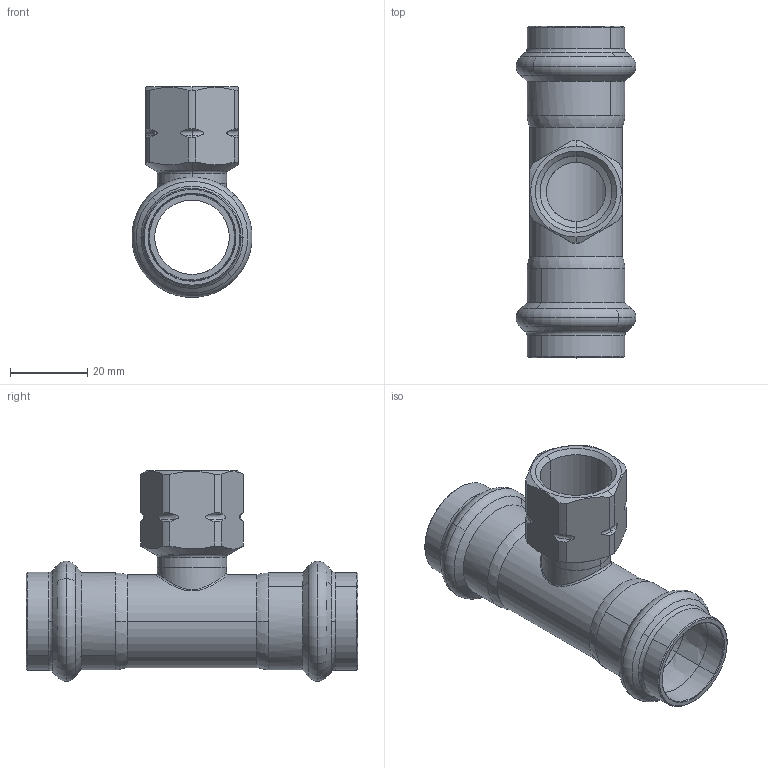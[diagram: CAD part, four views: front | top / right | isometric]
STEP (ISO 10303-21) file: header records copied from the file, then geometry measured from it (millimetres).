
FILE_DESCRIPTION(('CoCreate Modeling STEP Export'),'2;1');
FILE_NAME('8130GVW221222.stp','2013-02-05T10:23:41',(''),(''),'CoCreate Modeling STEP processor for AP214 (Solid Model)','CoCreate Modeling 17.00A 17-Jun-2010 (C) Parametric Technology GmbH','');
FILE_SCHEMA(('AUTOMOTIVE_DESIGN { 1 0 10303 214 1 1 1 1 }'));
Length unit declared in the file: millimetre
Products named in the file (2): 8130GVW221222
Assembly tree (1 placements, depth 2):
  8130GVW221222
    8130GVW221222
Bounding box: 31.08 x 86.01 x 54.54 mm (x, y, z)
Volume: 17232.1 mm3; surface area: 17402.3 mm2
Topology: 1 solids, 1 shells, 147 faces, 402 edges, 262 vertices
Faces by surface type: cylinder 46, cone 46, torus 38, plane 13, bspline 4
Entity records: 10150 total; most frequent: CARTESIAN_POINT 7112, ORIENTED_EDGE 804, DIRECTION 436, EDGE_CURVE 402, VERTEX_POINT 262, AXIS2_PLACEMENT_3D 178, EDGE_LOOP 156, FACE_OUTER_BOUND 147
